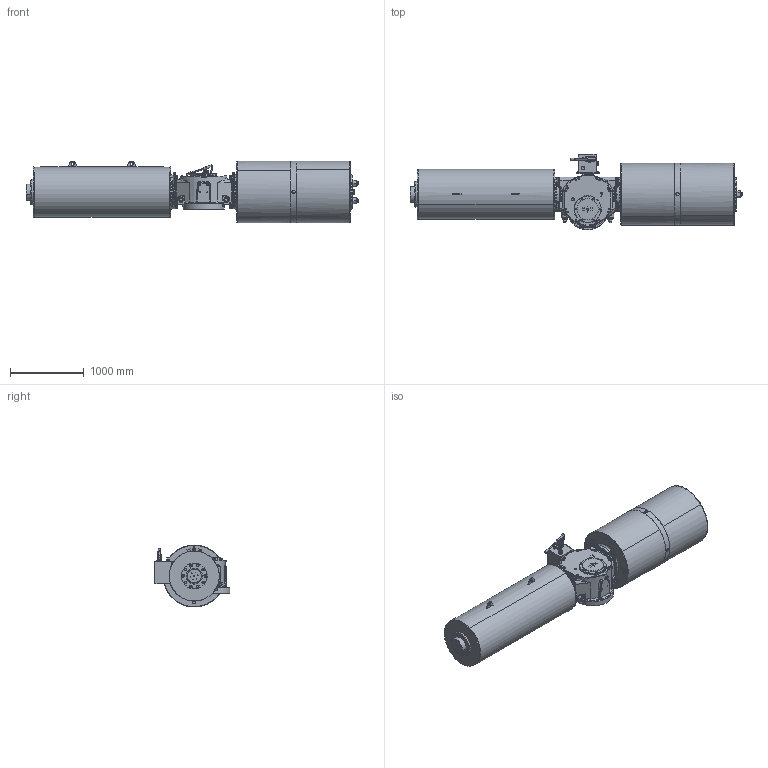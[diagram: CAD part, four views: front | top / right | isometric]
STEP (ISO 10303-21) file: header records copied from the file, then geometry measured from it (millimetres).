
FILE_DESCRIPTION (( 'STEP AP203' ), '1' );
FILE_NAME ('VTS7-800D-SR-MH-FO.STEP', '2023-01-01T10:12:52', ( '' ), ( '' ), 'SwSTEP 2.0', 'SolidWorks 2020', '' );
FILE_SCHEMA (( 'CONFIG_CONTROL_DESIGN' ));
Length unit declared in the file: millimetre
Products named in the file (1): VTS7-800D-SR-MH-FO
Bounding box: 4504 x 1027 x 839.5 mm (x, y, z)
Volume: 1755890610.6 mm3; surface area: 15083372.4 mm2
Topology: 42 solids, 43 shells, 3938 faces, 9536 edges, 5844 vertices
Faces by surface type: cylinder 1353, plane 1276, cone 896, bspline 380, torus 33
Entity records: 145205 total; most frequent: CARTESIAN_POINT 55027, DIRECTION 19110, ORIENTED_EDGE 18776, EDGE_CURVE 9388, AXIS2_PLACEMENT_3D 7675, VERTEX_POINT 5844, EDGE_LOOP 4366, CIRCLE 4116
